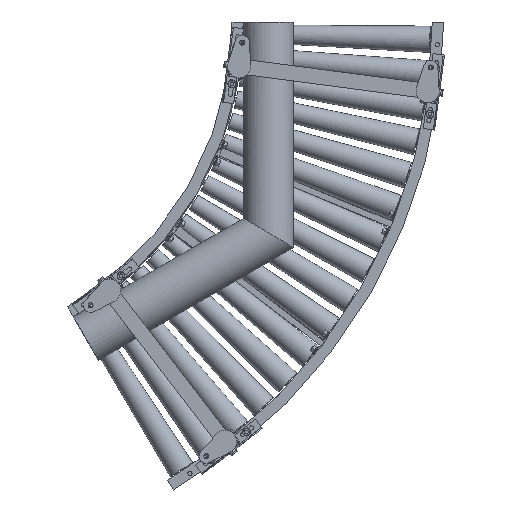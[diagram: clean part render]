
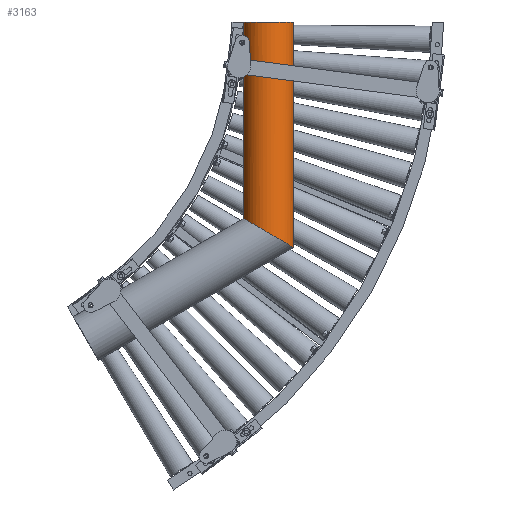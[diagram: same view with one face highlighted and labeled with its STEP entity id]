
A CAD part, front view. The second image highlights one B-rep face of the part: STEP entity #3163.
In plain terms, the highlighted cylindrical face has radius 67.024 mm (diameter 134.048 mm), a partial arc.
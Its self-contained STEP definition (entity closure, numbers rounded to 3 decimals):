
#3163=ADVANCED_FACE('',(#21898),#21897,.T.);
#21897=CYLINDRICAL_SURFACE('',#35795,67.024);
#21898=FACE_OUTER_BOUND('',#35796,.T.);
#35792=CARTESIAN_POINT('',(967.,-156.676,0.));
#35793=DIRECTION('',(0.,0.,1.));
#35794=DIRECTION('',(1.,0.,0.));
#35795=AXIS2_PLACEMENT_3D('',#35792,#35793,#35794);
#35796=EDGE_LOOP('',(#47006,#47007,#47008,#47009));
#47006=ORIENTED_EDGE('',*,*,#53508,.F.);
#47007=ORIENTED_EDGE('',*,*,#53491,.F.);
#47008=ORIENTED_EDGE('',*,*,#53503,.T.);
#47009=ORIENTED_EDGE('',*,*,#53499,.F.);
#53491=EDGE_CURVE('',#85806,#85807,#85808,.T.);
#53499=EDGE_CURVE('',#85860,#85834,#85861,.T.);
#53503=EDGE_CURVE('',#85806,#85834,#85886,.T.);
#53508=EDGE_CURVE('',#85807,#85860,#85918,.T.);
#85806=VERTEX_POINT('',#112086);
#85807=VERTEX_POINT('',#112087);
#85808=CIRCLE('',#112091,67.024);
#85834=VERTEX_POINT('',#112103);
#85860=VERTEX_POINT('',#112117);
#85861=(BOUNDED_CURVE() B_SPLINE_CURVE(2,(#112118,#112119,#112120,#112121,#112122),.UNSPECIFIED.,.F.,.F.) B_SPLINE_CURVE_WITH_KNOTS((3,2,3),(0.147,1.571,2.994),.UNSPECIFIED.) CURVE() GEOMETRIC_REPRESENTATION_ITEM() RATIONAL_B_SPLINE_CURVE((1.,0.757,1.,0.757,1.)) REPRESENTATION_ITEM('') );
#85886=LINE('',#112133,#112134);
#85918=LINE('',#112150,#112151);
#112086=CARTESIAN_POINT('',(900.7,-166.5,0.));
#112087=CARTESIAN_POINT('',(1033.3,-166.5,0.));
#112088=CARTESIAN_POINT('',(967.,-156.676,0.));
#112089=DIRECTION('',(0.,0.,1.));
#112090=DIRECTION('',(-1.,0.,0.));
#112091=AXIS2_PLACEMENT_3D('',#112088,#112089,#112090);
#112103=CARTESIAN_POINT('',(900.7,-166.5,-520.019));
#112117=CARTESIAN_POINT('',(1033.3,-166.5,-596.576));
#112118=CARTESIAN_POINT('',(1033.3,-166.5,-596.576));
#112119=CARTESIAN_POINT('',(1024.825,-223.7,-591.683));
#112120=CARTESIAN_POINT('',(967.,-223.7,-558.298));
#112121=CARTESIAN_POINT('',(909.175,-223.7,-524.913));
#112122=CARTESIAN_POINT('',(900.7,-166.5,-520.019));
#112133=CARTESIAN_POINT('',(900.7,-166.5,0.));
#112134=VECTOR('',#112135,520.019);
#112135=DIRECTION('',(0.,0.,-1.));
#112150=CARTESIAN_POINT('',(1033.3,-166.5,0.));
#112151=VECTOR('',#112152,596.576);
#112152=DIRECTION('',(0.,0.,-1.));
